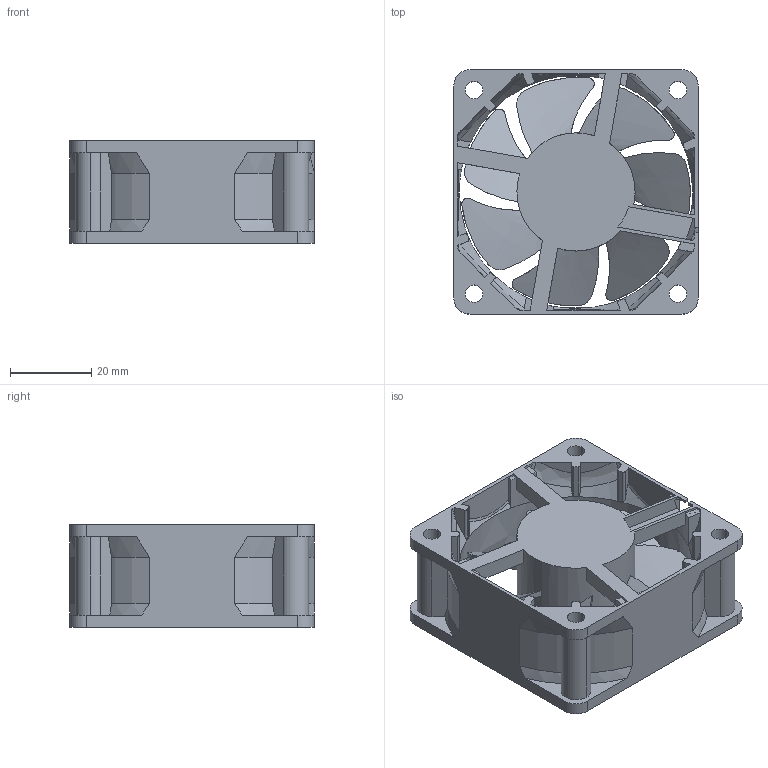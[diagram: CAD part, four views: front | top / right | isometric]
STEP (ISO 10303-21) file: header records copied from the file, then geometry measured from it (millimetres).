
FILE_DESCRIPTION (( 'STEP AP203' ), '1' );
FILE_NAME ('6025 S RIBBED.STEP', '2017-03-10T08:05:19', ( '' ), ( '' ), 'SwSTEP 2.0', 'SolidWorks 2017', '' );
FILE_SCHEMA (( 'CONFIG_CONTROL_DESIGN' ));
Length unit declared in the file: millimetre
Products named in the file (1): 6025 S RIBBED
Bounding box: 60 x 60 x 25.2 mm (x, y, z)
Volume: 32231.7 mm3; surface area: 24193.7 mm2
Topology: 5 solids, 5 shells, 396 faces, 1117 edges, 736 vertices
Faces by surface type: cylinder 173, plane 133, bspline 50, cone 34, torus 6
Entity records: 15809 total; most frequent: CARTESIAN_POINT 6185, ORIENTED_EDGE 2234, DIRECTION 1659, EDGE_CURVE 1117, VERTEX_POINT 736, AXIS2_PLACEMENT_3D 596, LINE 467, VECTOR 467
